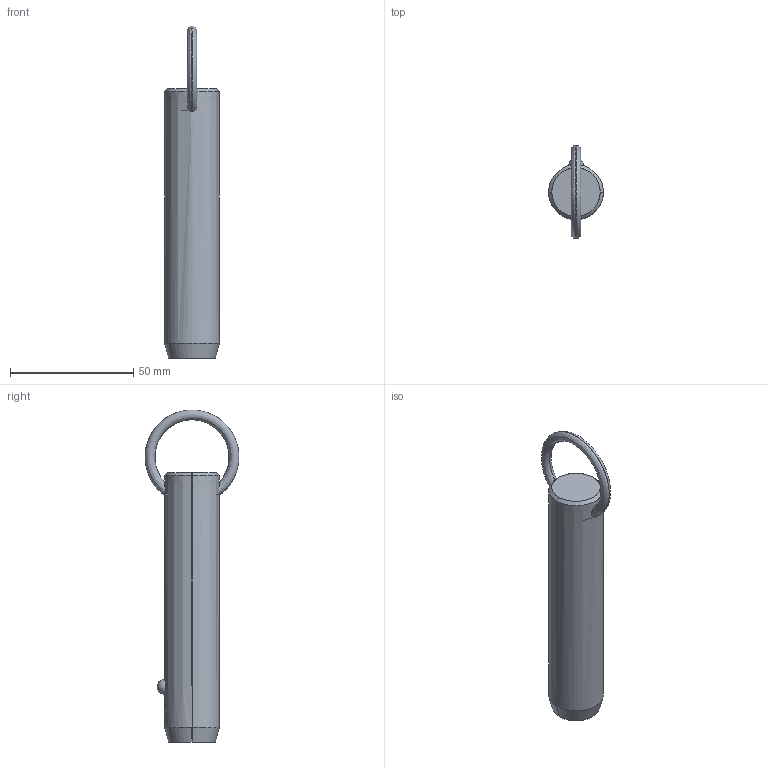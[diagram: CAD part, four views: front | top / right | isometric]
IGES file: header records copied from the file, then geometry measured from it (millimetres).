
Start section: SolidWorks IGES file using analytic representation for surfaces
Global section: file name: C:\Users\liam_\OneDrive\Documents\WORK\Work for WixRoyd\Job Files\J-00019 - Matt Davis CAD Checking\04. CAD Drawings\automotion20190605\P1250.2_v2\P1250.2_v2_20190729_IGES\P1250.087-280.igs; native system: SolidWorks 2017; preprocessor: SolidWorks 2017; author: liam_; date: 190730.000819; units: millimetre
Bounding box: 22.2 x 38.08 x 134.6 mm (x, y, z)
Surface area: 9259.7 mm2 (no closed solid volume)
Topology: 0 solids, 0 shells, 12 faces, 302 edges, 300 vertices
Faces by surface type: revolution 8, bspline 4
